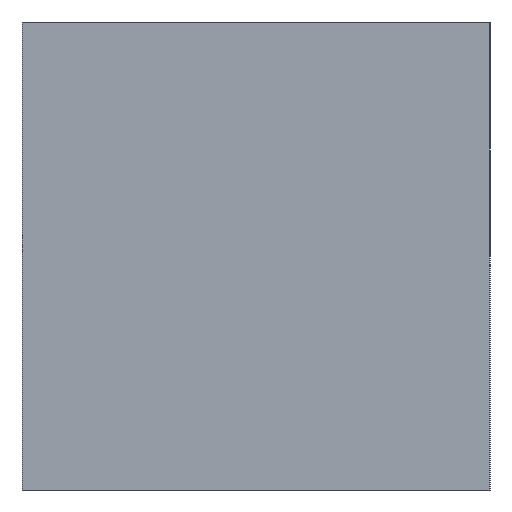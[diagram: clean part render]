
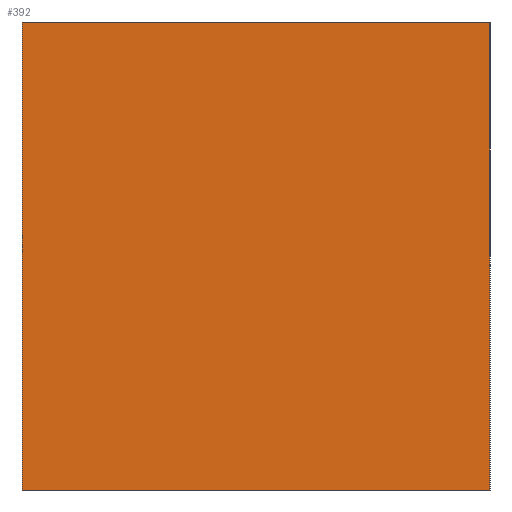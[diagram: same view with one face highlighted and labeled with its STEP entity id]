
A CAD part, left-side view. The second image highlights one B-rep face of the part: STEP entity #392.
In plain terms, the highlighted planar face has unit normal (-1, 0, 0).
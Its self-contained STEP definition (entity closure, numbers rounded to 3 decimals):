
#392 = ADVANCED_FACE('',(#393),#407,.F.);
#393 = FACE_BOUND('',#394,.F.);
#394 = EDGE_LOOP('',(#395,#430,#458,#486));
#395 = ORIENTED_EDGE('',*,*,#396,.F.);
#396 = EDGE_CURVE('',#397,#399,#401,.T.);
#397 = VERTEX_POINT('',#398);
#398 = CARTESIAN_POINT('',(-0.5,-1.3,-1.3));
#399 = VERTEX_POINT('',#400);
#400 = CARTESIAN_POINT('',(-0.5,-1.3,1.3));
#401 = SURFACE_CURVE('',#402,(#406,#418),.PCURVE_S1.);
#402 = LINE('',#403,#404);
#403 = CARTESIAN_POINT('',(-0.5,-1.3,-1.3));
#404 = VECTOR('',#405,1.);
#405 = DIRECTION('',(0.,0.,1.));
#406 = PCURVE('',#407,#412);
#407 = PLANE('',#408);
#408 = AXIS2_PLACEMENT_3D('',#409,#410,#411);
#409 = CARTESIAN_POINT('',(-0.5,-1.3,-1.3));
#410 = DIRECTION('',(1.,0.,-0.));
#411 = DIRECTION('',(0.,0.,1.));
#412 = DEFINITIONAL_REPRESENTATION('',(#413),#417);
#413 = LINE('',#414,#415);
#414 = CARTESIAN_POINT('',(0.,0.));
#415 = VECTOR('',#416,1.);
#416 = DIRECTION('',(1.,0.));
#417 = ( GEOMETRIC_REPRESENTATION_CONTEXT(2) 
PARAMETRIC_REPRESENTATION_CONTEXT() REPRESENTATION_CONTEXT('2D SPACE',''
  ) );
#418 = PCURVE('',#419,#424);
#419 = PLANE('',#420);
#420 = AXIS2_PLACEMENT_3D('',#421,#422,#423);
#421 = CARTESIAN_POINT('',(-0.5,-1.3,-1.3));
#422 = DIRECTION('',(-0.,1.,0.));
#423 = DIRECTION('',(0.,0.,1.));
#424 = DEFINITIONAL_REPRESENTATION('',(#425),#429);
#425 = LINE('',#426,#427);
#426 = CARTESIAN_POINT('',(0.,0.));
#427 = VECTOR('',#428,1.);
#428 = DIRECTION('',(1.,0.));
#429 = ( GEOMETRIC_REPRESENTATION_CONTEXT(2) 
PARAMETRIC_REPRESENTATION_CONTEXT() REPRESENTATION_CONTEXT('2D SPACE',''
  ) );
#430 = ORIENTED_EDGE('',*,*,#431,.T.);
#431 = EDGE_CURVE('',#397,#432,#434,.T.);
#432 = VERTEX_POINT('',#433);
#433 = CARTESIAN_POINT('',(-0.5,1.3,-1.3));
#434 = SURFACE_CURVE('',#435,(#439,#446),.PCURVE_S1.);
#435 = LINE('',#436,#437);
#436 = CARTESIAN_POINT('',(-0.5,-1.3,-1.3));
#437 = VECTOR('',#438,1.);
#438 = DIRECTION('',(-0.,1.,0.));
#439 = PCURVE('',#407,#440);
#440 = DEFINITIONAL_REPRESENTATION('',(#441),#445);
#441 = LINE('',#442,#443);
#442 = CARTESIAN_POINT('',(0.,0.));
#443 = VECTOR('',#444,1.);
#444 = DIRECTION('',(0.,-1.));
#445 = ( GEOMETRIC_REPRESENTATION_CONTEXT(2) 
PARAMETRIC_REPRESENTATION_CONTEXT() REPRESENTATION_CONTEXT('2D SPACE',''
  ) );
#446 = PCURVE('',#447,#452);
#447 = PLANE('',#448);
#448 = AXIS2_PLACEMENT_3D('',#449,#450,#451);
#449 = CARTESIAN_POINT('',(-0.5,-1.3,-1.3));
#450 = DIRECTION('',(0.,0.,1.));
#451 = DIRECTION('',(1.,0.,-0.));
#452 = DEFINITIONAL_REPRESENTATION('',(#453),#457);
#453 = LINE('',#454,#455);
#454 = CARTESIAN_POINT('',(0.,0.));
#455 = VECTOR('',#456,1.);
#456 = DIRECTION('',(0.,1.));
#457 = ( GEOMETRIC_REPRESENTATION_CONTEXT(2) 
PARAMETRIC_REPRESENTATION_CONTEXT() REPRESENTATION_CONTEXT('2D SPACE',''
  ) );
#458 = ORIENTED_EDGE('',*,*,#459,.T.);
#459 = EDGE_CURVE('',#432,#460,#462,.T.);
#460 = VERTEX_POINT('',#461);
#461 = CARTESIAN_POINT('',(-0.5,1.3,1.3));
#462 = SURFACE_CURVE('',#463,(#467,#474),.PCURVE_S1.);
#463 = LINE('',#464,#465);
#464 = CARTESIAN_POINT('',(-0.5,1.3,-1.3));
#465 = VECTOR('',#466,1.);
#466 = DIRECTION('',(0.,0.,1.));
#467 = PCURVE('',#407,#468);
#468 = DEFINITIONAL_REPRESENTATION('',(#469),#473);
#469 = LINE('',#470,#471);
#470 = CARTESIAN_POINT('',(0.,-2.6));
#471 = VECTOR('',#472,1.);
#472 = DIRECTION('',(1.,0.));
#473 = ( GEOMETRIC_REPRESENTATION_CONTEXT(2) 
PARAMETRIC_REPRESENTATION_CONTEXT() REPRESENTATION_CONTEXT('2D SPACE',''
  ) );
#474 = PCURVE('',#475,#480);
#475 = PLANE('',#476);
#476 = AXIS2_PLACEMENT_3D('',#477,#478,#479);
#477 = CARTESIAN_POINT('',(-0.5,1.3,-1.3));
#478 = DIRECTION('',(-0.,1.,0.));
#479 = DIRECTION('',(0.,0.,1.));
#480 = DEFINITIONAL_REPRESENTATION('',(#481),#485);
#481 = LINE('',#482,#483);
#482 = CARTESIAN_POINT('',(0.,0.));
#483 = VECTOR('',#484,1.);
#484 = DIRECTION('',(1.,0.));
#485 = ( GEOMETRIC_REPRESENTATION_CONTEXT(2) 
PARAMETRIC_REPRESENTATION_CONTEXT() REPRESENTATION_CONTEXT('2D SPACE',''
  ) );
#486 = ORIENTED_EDGE('',*,*,#487,.F.);
#487 = EDGE_CURVE('',#399,#460,#488,.T.);
#488 = SURFACE_CURVE('',#489,(#493,#500),.PCURVE_S1.);
#489 = LINE('',#490,#491);
#490 = CARTESIAN_POINT('',(-0.5,-1.3,1.3));
#491 = VECTOR('',#492,1.);
#492 = DIRECTION('',(-0.,1.,0.));
#493 = PCURVE('',#407,#494);
#494 = DEFINITIONAL_REPRESENTATION('',(#495),#499);
#495 = LINE('',#496,#497);
#496 = CARTESIAN_POINT('',(2.6,0.));
#497 = VECTOR('',#498,1.);
#498 = DIRECTION('',(0.,-1.));
#499 = ( GEOMETRIC_REPRESENTATION_CONTEXT(2) 
PARAMETRIC_REPRESENTATION_CONTEXT() REPRESENTATION_CONTEXT('2D SPACE',''
  ) );
#500 = PCURVE('',#501,#506);
#501 = PLANE('',#502);
#502 = AXIS2_PLACEMENT_3D('',#503,#504,#505);
#503 = CARTESIAN_POINT('',(-0.5,-1.3,1.3));
#504 = DIRECTION('',(0.,0.,1.));
#505 = DIRECTION('',(1.,0.,-0.));
#506 = DEFINITIONAL_REPRESENTATION('',(#507),#511);
#507 = LINE('',#508,#509);
#508 = CARTESIAN_POINT('',(0.,0.));
#509 = VECTOR('',#510,1.);
#510 = DIRECTION('',(0.,1.));
#511 = ( GEOMETRIC_REPRESENTATION_CONTEXT(2) 
PARAMETRIC_REPRESENTATION_CONTEXT() REPRESENTATION_CONTEXT('2D SPACE',''
  ) );
